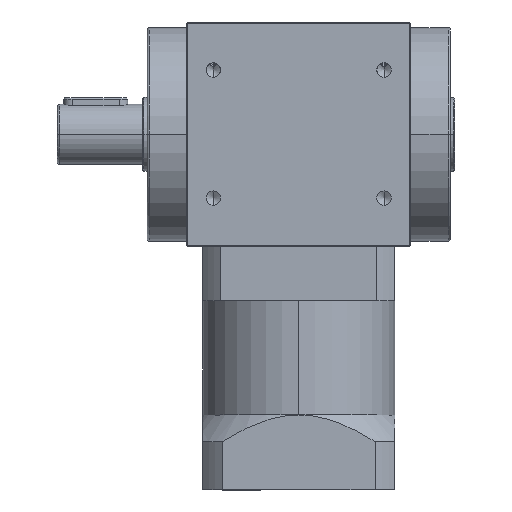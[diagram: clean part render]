
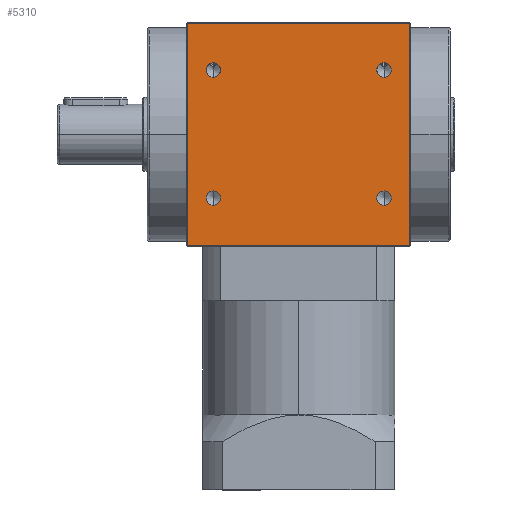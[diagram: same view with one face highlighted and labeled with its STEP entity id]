
A CAD part, top view. The second image highlights one B-rep face of the part: STEP entity #5310.
In plain terms, the highlighted planar face has unit normal (0, 0, 1).
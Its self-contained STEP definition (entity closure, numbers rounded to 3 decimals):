
#40 = VERTEX_POINT ( 'NONE', #6139 ) ;
#45 = LINE ( 'NONE', #8282, #4488 ) ;
#122 = CARTESIAN_POINT ( 'NONE',  ( -40., -30., 52.5 ) ) ;
#201 = ORIENTED_EDGE ( 'NONE', *, *, #2681, .F. ) ;
#259 = AXIS2_PLACEMENT_3D ( 'NONE', #5676, #1747, #6374 ) ;
#789 = FACE_OUTER_BOUND ( 'NONE', #3906, .T. ) ;
#801 = DIRECTION ( 'NONE',  ( 1., 0., 0. ) ) ;
#825 = DIRECTION ( 'NONE',  ( 0., -1., 0. ) ) ;
#863 = DIRECTION ( 'NONE',  ( 0., 0., 1. ) ) ;
#925 = DIRECTION ( 'NONE',  ( 0., 0., 1. ) ) ;
#1056 = DIRECTION ( 'NONE',  ( 0., 1., 0. ) ) ;
#1172 = CARTESIAN_POINT ( 'NONE',  ( -40., 30., 52.5 ) ) ;
#1223 = AXIS2_PLACEMENT_3D ( 'NONE', #1172, #7883, #1922 ) ;
#1457 = VECTOR ( 'NONE', #2067, 1000. ) ;
#1509 = CARTESIAN_POINT ( 'NONE',  ( 0., -52., 52.5 ) ) ;
#1583 = VERTEX_POINT ( 'NONE', #3659 ) ;
#1617 = ORIENTED_EDGE ( 'NONE', *, *, #7473, .F. ) ;
#1626 = ORIENTED_EDGE ( 'NONE', *, *, #4140, .F. ) ;
#1747 = DIRECTION ( 'NONE',  ( 0., 0., 1. ) ) ;
#1847 = DIRECTION ( 'NONE',  ( 0., 0., 1. ) ) ;
#1922 = DIRECTION ( 'NONE',  ( 0., -1., 0. ) ) ;
#2064 = CIRCLE ( 'NONE', #7147, 3.4 ) ;
#2067 = DIRECTION ( 'NONE',  ( -1., 0., 0. ) ) ;
#2298 = CARTESIAN_POINT ( 'NONE',  ( -40., 26.6, 52.5 ) ) ;
#2330 = VERTEX_POINT ( 'NONE', #8531 ) ;
#2418 = VERTEX_POINT ( 'NONE', #5874 ) ;
#2421 = EDGE_LOOP ( 'NONE', ( #3499, #201 ) ) ;
#2598 = ORIENTED_EDGE ( 'NONE', *, *, #4301, .T. ) ;
#2681 = EDGE_CURVE ( 'NONE', #1583, #8460, #3785, .T. ) ;
#2887 = CARTESIAN_POINT ( 'NONE',  ( 40., -30., 52.5 ) ) ;
#3111 = VECTOR ( 'NONE', #8111, 1000. ) ;
#3183 = ORIENTED_EDGE ( 'NONE', *, *, #7580, .F. ) ;
#3210 = ORIENTED_EDGE ( 'NONE', *, *, #8304, .F. ) ;
#3242 = ORIENTED_EDGE ( 'NONE', *, *, #6368, .F. ) ;
#3255 = ORIENTED_EDGE ( 'NONE', *, *, #8427, .F. ) ;
#3332 = FACE_BOUND ( 'NONE', #2421, .T. ) ;
#3342 = FACE_BOUND ( 'NONE', #7368, .T. ) ;
#3390 = CARTESIAN_POINT ( 'NONE',  ( 0., 52., 52.5 ) ) ;
#3499 = ORIENTED_EDGE ( 'NONE', *, *, #6577, .F. ) ;
#3511 = CARTESIAN_POINT ( 'NONE',  ( -52., 52., 52.5 ) ) ;
#3523 = ORIENTED_EDGE ( 'NONE', *, *, #4567, .T. ) ;
#3562 = DIRECTION ( 'NONE',  ( 0., -1., 0. ) ) ;
#3651 = CIRCLE ( 'NONE', #5835, 3.4 ) ;
#3659 = CARTESIAN_POINT ( 'NONE',  ( -40., 33.4, 52.5 ) ) ;
#3725 = CARTESIAN_POINT ( 'NONE',  ( 40., 30., 52.5 ) ) ;
#3783 = PLANE ( 'NONE',  #8431 ) ;
#3785 = CIRCLE ( 'NONE', #1223, 3.4 ) ;
#3819 = DIRECTION ( 'NONE',  ( 0., 0., -1. ) ) ;
#3906 = EDGE_LOOP ( 'NONE', ( #3523, #6126, #6690, #2598 ) ) ;
#4102 = LINE ( 'NONE', #4156, #3111 ) ;
#4140 = EDGE_CURVE ( 'NONE', #5305, #5294, #8564, .T. ) ;
#4156 = CARTESIAN_POINT ( 'NONE',  ( -52., 0., 52.5 ) ) ;
#4201 = CARTESIAN_POINT ( 'NONE',  ( 40., 33.4, 52.5 ) ) ;
#4283 = EDGE_LOOP ( 'NONE', ( #3183, #3210 ) ) ;
#4301 = EDGE_CURVE ( 'NONE', #4552, #2330, #7017, .T. ) ;
#4312 = VERTEX_POINT ( 'NONE', #3511 ) ;
#4349 = DIRECTION ( 'NONE',  ( 0., -1., 0. ) ) ;
#4405 = CARTESIAN_POINT ( 'NONE',  ( -40., -33.4, 52.5 ) ) ;
#4488 = VECTOR ( 'NONE', #1056, 1000. ) ;
#4552 = VERTEX_POINT ( 'NONE', #5666 ) ;
#4567 = EDGE_CURVE ( 'NONE', #2330, #6168, #45, .T. ) ;
#4741 = AXIS2_PLACEMENT_3D ( 'NONE', #4883, #925, #5533 ) ;
#4773 = AXIS2_PLACEMENT_3D ( 'NONE', #4820, #863, #5475 ) ;
#4782 = DIRECTION ( 'NONE',  ( 0., 0., 1. ) ) ;
#4820 = CARTESIAN_POINT ( 'NONE',  ( 40., 30., 52.5 ) ) ;
#4883 = CARTESIAN_POINT ( 'NONE',  ( 40., -30., 52.5 ) ) ;
#5192 = EDGE_LOOP ( 'NONE', ( #1617, #1626 ) ) ;
#5294 = VERTEX_POINT ( 'NONE', #4405 ) ;
#5305 = VERTEX_POINT ( 'NONE', #7713 ) ;
#5310 = ADVANCED_FACE ( 'NONE', ( #789, #3332, #6628, #6536, #3342 ), #3783, .F. ) ;
#5475 = DIRECTION ( 'NONE',  ( 0., -1., 0. ) ) ;
#5483 = EDGE_CURVE ( 'NONE', #6168, #4312, #6416, .T. ) ;
#5533 = DIRECTION ( 'NONE',  ( 0., -1., 0. ) ) ;
#5608 = AXIS2_PLACEMENT_3D ( 'NONE', #3725, #8307, #4349 ) ;
#5666 = CARTESIAN_POINT ( 'NONE',  ( -52., -52., 52.5 ) ) ;
#5676 = CARTESIAN_POINT ( 'NONE',  ( -40., -30., 52.5 ) ) ;
#5783 = CARTESIAN_POINT ( 'NONE',  ( -40., 30., 52.5 ) ) ;
#5835 = AXIS2_PLACEMENT_3D ( 'NONE', #122, #4782, #825 ) ;
#5874 = CARTESIAN_POINT ( 'NONE',  ( 40., -26.6, 52.5 ) ) ;
#6036 = VERTEX_POINT ( 'NONE', #6037 ) ;
#6037 = CARTESIAN_POINT ( 'NONE',  ( 40., -33.4, 52.5 ) ) ;
#6091 = EDGE_CURVE ( 'NONE', #4312, #4552, #4102, .T. ) ;
#6126 = ORIENTED_EDGE ( 'NONE', *, *, #5483, .T. ) ;
#6139 = CARTESIAN_POINT ( 'NONE',  ( 40., 26.6, 52.5 ) ) ;
#6168 = VERTEX_POINT ( 'NONE', #8321 ) ;
#6181 = CIRCLE ( 'NONE', #6971, 3.4 ) ;
#6312 = CIRCLE ( 'NONE', #5608, 3.4 ) ;
#6368 = EDGE_CURVE ( 'NONE', #6036, #2418, #2064, .T. ) ;
#6374 = DIRECTION ( 'NONE',  ( 0., -1., 0. ) ) ;
#6392 = VERTEX_POINT ( 'NONE', #4201 ) ;
#6416 = LINE ( 'NONE', #3390, #1457 ) ;
#6470 = DIRECTION ( 'NONE',  ( 0., -1., 0. ) ) ;
#6536 = FACE_BOUND ( 'NONE', #5192, .T. ) ;
#6577 = EDGE_CURVE ( 'NONE', #8460, #1583, #6181, .T. ) ;
#6628 = FACE_BOUND ( 'NONE', #4283, .T. ) ;
#6690 = ORIENTED_EDGE ( 'NONE', *, *, #6091, .T. ) ;
#6971 = AXIS2_PLACEMENT_3D ( 'NONE', #5783, #1847, #6470 ) ;
#6989 = VECTOR ( 'NONE', #801, 1000. ) ;
#7017 = LINE ( 'NONE', #1509, #6989 ) ;
#7147 = AXIS2_PLACEMENT_3D ( 'NONE', #2887, #7486, #3562 ) ;
#7368 = EDGE_LOOP ( 'NONE', ( #3242, #3255 ) ) ;
#7473 = EDGE_CURVE ( 'NONE', #5294, #5305, #3651, .T. ) ;
#7486 = DIRECTION ( 'NONE',  ( 0., 0., 1. ) ) ;
#7580 = EDGE_CURVE ( 'NONE', #40, #6392, #6312, .T. ) ;
#7590 = CIRCLE ( 'NONE', #4741, 3.4 ) ;
#7713 = CARTESIAN_POINT ( 'NONE',  ( -40., -26.6, 52.5 ) ) ;
#7749 = CARTESIAN_POINT ( 'NONE',  ( 0., 0., 52.5 ) ) ;
#7883 = DIRECTION ( 'NONE',  ( 0., 0., 1. ) ) ;
#7928 = CIRCLE ( 'NONE', #4773, 3.4 ) ;
#8111 = DIRECTION ( 'NONE',  ( 0., -1., 0. ) ) ;
#8282 = CARTESIAN_POINT ( 'NONE',  ( 52., 0., 52.5 ) ) ;
#8304 = EDGE_CURVE ( 'NONE', #6392, #40, #7928, .T. ) ;
#8307 = DIRECTION ( 'NONE',  ( 0., 0., 1. ) ) ;
#8321 = CARTESIAN_POINT ( 'NONE',  ( 52., 52., 52.5 ) ) ;
#8397 = DIRECTION ( 'NONE',  ( -1., 0., 0. ) ) ;
#8427 = EDGE_CURVE ( 'NONE', #2418, #6036, #7590, .T. ) ;
#8431 = AXIS2_PLACEMENT_3D ( 'NONE', #7749, #3819, #8397 ) ;
#8460 = VERTEX_POINT ( 'NONE', #2298 ) ;
#8531 = CARTESIAN_POINT ( 'NONE',  ( 52., -52., 52.5 ) ) ;
#8564 = CIRCLE ( 'NONE', #259, 3.4 ) ;
